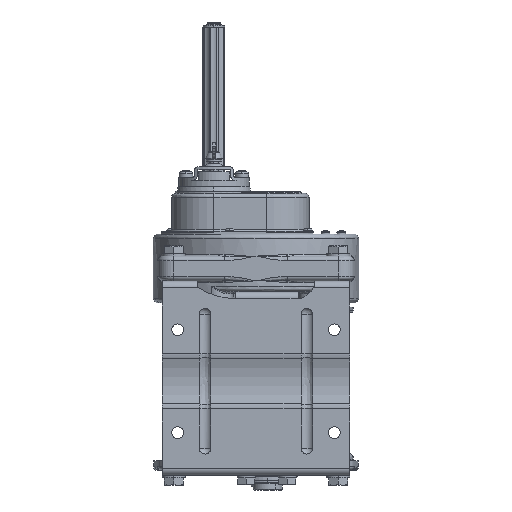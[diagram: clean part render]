
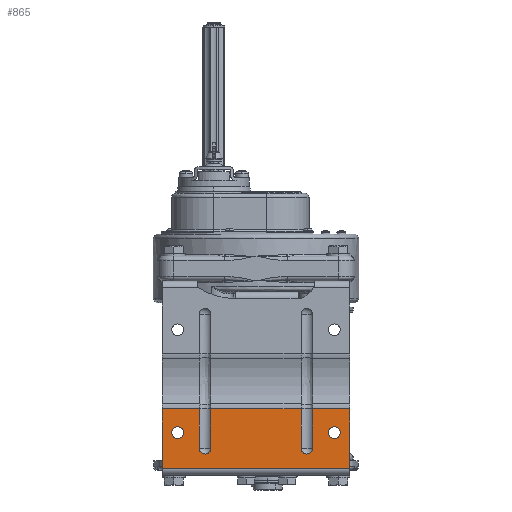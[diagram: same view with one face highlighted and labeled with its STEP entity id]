
A CAD part, front view. The second image highlights one B-rep face of the part: STEP entity #865.
In plain terms, the highlighted planar face has unit normal (0, -1, 0).
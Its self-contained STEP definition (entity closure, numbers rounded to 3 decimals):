
#865=ADVANCED_FACE('',(#10413,#10414,#10415),#10412,.T.);
#10412=PLANE('',#37247);
#10413=FACE_OUTER_BOUND('',#37248,.T.);
#10414=FACE_BOUND('',#37249,.T.);
#10415=FACE_BOUND('',#37250,.T.);
#37244=CARTESIAN_POINT('',(-375.965,0.,280.998));
#37245=DIRECTION('',(0.,-1.,0.));
#37246=DIRECTION('',(0.,0.,1.));
#37247=AXIS2_PLACEMENT_3D('',#37244,#37245,#37246);
#37248=EDGE_LOOP('',(#55670,#55671,#55672,#55673,#55674,#55675,#55676,#55677,#55678,#55679,#55680,#55681));
#37249=EDGE_LOOP('',(#55682,#55683));
#37250=EDGE_LOOP('',(#55684,#55685));
#55670=ORIENTED_EDGE('',*,*,#67986,.T.);
#55671=ORIENTED_EDGE('',*,*,#67991,.F.);
#55672=ORIENTED_EDGE('',*,*,#67992,.T.);
#55673=ORIENTED_EDGE('',*,*,#67993,.T.);
#55674=ORIENTED_EDGE('',*,*,#67990,.T.);
#55675=ORIENTED_EDGE('',*,*,#67966,.F.);
#55676=ORIENTED_EDGE('',*,*,#67962,.F.);
#55677=ORIENTED_EDGE('',*,*,#67965,.T.);
#55678=ORIENTED_EDGE('',*,*,#67957,.T.);
#55679=ORIENTED_EDGE('',*,*,#67903,.F.);
#55680=ORIENTED_EDGE('',*,*,#67775,.F.);
#55681=ORIENTED_EDGE('',*,*,#67928,.T.);
#55682=ORIENTED_EDGE('',*,*,#67994,.F.);
#55683=ORIENTED_EDGE('',*,*,#67995,.F.);
#55684=ORIENTED_EDGE('',*,*,#67996,.F.);
#55685=ORIENTED_EDGE('',*,*,#67997,.F.);
#67775=EDGE_CURVE('',#87179,#87180,#87181,.T.);
#67903=EDGE_CURVE('',#87180,#88039,#88040,.T.);
#67928=EDGE_CURVE('',#87179,#88194,#88201,.T.);
#67957=EDGE_CURVE('',#88376,#88039,#88390,.T.);
#67962=EDGE_CURVE('',#88417,#88425,#88426,.T.);
#67965=EDGE_CURVE('',#88417,#88376,#88445,.T.);
#67966=EDGE_CURVE('',#88425,#88438,#88451,.T.);
#67986=EDGE_CURVE('',#88194,#88578,#88585,.T.);
#67990=EDGE_CURVE('',#88591,#88438,#88612,.T.);
#67991=EDGE_CURVE('',#88618,#88578,#88619,.T.);
#67992=EDGE_CURVE('',#88618,#88625,#88626,.T.);
#67993=EDGE_CURVE('',#88625,#88591,#88632,.T.);
#67994=EDGE_CURVE('',#88638,#88639,#88640,.T.);
#67995=EDGE_CURVE('',#88639,#88638,#88646,.T.);
#67996=EDGE_CURVE('',#88652,#88653,#88654,.T.);
#67997=EDGE_CURVE('',#88653,#88652,#88660,.T.);
#87179=VERTEX_POINT('',#129385);
#87180=VERTEX_POINT('',#129386);
#87181=LINE('',#129387,#129388);
#88039=VERTEX_POINT('',#129935);
#88040=LINE('',#129936,#129937);
#88194=VERTEX_POINT('',#130026);
#88201=LINE('',#130031,#130032);
#88376=VERTEX_POINT('',#130138);
#88390=LINE('',#130147,#130148);
#88417=VERTEX_POINT('',#130165);
#88425=VERTEX_POINT('',#130171);
#88426=CIRCLE('',#130175,6.);
#88438=VERTEX_POINT('',#130180);
#88445=LINE('',#130185,#130186);
#88451=LINE('',#130188,#130189);
#88578=VERTEX_POINT('',#130267);
#88585=LINE('',#130272,#130273);
#88591=VERTEX_POINT('',#130275);
#88612=LINE('',#130289,#130290);
#88618=VERTEX_POINT('',#130292);
#88619=LINE('',#130293,#130294);
#88625=VERTEX_POINT('',#130296);
#88626=CIRCLE('',#130300,6.);
#88632=LINE('',#130301,#130302);
#88638=VERTEX_POINT('',#130304);
#88639=VERTEX_POINT('',#130305);
#88640=CIRCLE('',#130309,6.);
#88646=CIRCLE('',#130313,6.);
#88652=VERTEX_POINT('',#130314);
#88653=VERTEX_POINT('',#130315);
#88654=CIRCLE('',#130319,6.);
#88660=CIRCLE('',#130323,6.);
#129385=CARTESIAN_POINT('',(-385.965,0.,287.098));
#129386=CARTESIAN_POINT('',(-577.965,0.,287.098));
#129387=CARTESIAN_POINT('',(-385.965,0.,287.098));
#129388=VECTOR('',#129389,192.);
#129389=DIRECTION('',(-1.,0.,0.));
#129935=CARTESIAN_POINT('',(-577.965,0.,348.102));
#129936=CARTESIAN_POINT('',(-577.965,0.,287.098));
#129937=VECTOR('',#129938,61.004);
#129938=DIRECTION('',(0.,0.,1.));
#130026=CARTESIAN_POINT('',(-385.965,0.,348.102));
#130031=CARTESIAN_POINT('',(-385.965,0.,287.098));
#130032=VECTOR('',#130033,61.004);
#130033=DIRECTION('',(0.,0.,1.));
#130138=CARTESIAN_POINT('',(-539.965,0.,348.102));
#130147=CARTESIAN_POINT('',(-539.965,0.,348.102));
#130148=VECTOR('',#130149,38.);
#130149=DIRECTION('',(-1.,0.,0.));
#130165=CARTESIAN_POINT('',(-539.965,0.,307.896));
#130171=CARTESIAN_POINT('',(-527.965,0.,307.896));
#130172=CARTESIAN_POINT('',(-533.965,0.,307.896));
#130173=DIRECTION('',(0.,-1.,0.));
#130174=DIRECTION('',(1.,0.,0.));
#130175=AXIS2_PLACEMENT_3D('',#130172,#130173,#130174);
#130180=CARTESIAN_POINT('',(-527.965,0.,348.102));
#130185=CARTESIAN_POINT('',(-539.965,0.,307.896));
#130186=VECTOR('',#130187,40.206);
#130187=DIRECTION('',(0.,0.,1.));
#130188=CARTESIAN_POINT('',(-527.965,0.,307.896));
#130189=VECTOR('',#130190,40.206);
#130190=DIRECTION('',(0.,0.,1.));
#130267=CARTESIAN_POINT('',(-423.965,0.,348.102));
#130272=CARTESIAN_POINT('',(-385.965,0.,348.102));
#130273=VECTOR('',#130274,38.);
#130274=DIRECTION('',(-1.,0.,0.));
#130275=CARTESIAN_POINT('',(-435.965,0.,348.102));
#130289=CARTESIAN_POINT('',(-435.965,0.,348.102));
#130290=VECTOR('',#130291,92.);
#130291=DIRECTION('',(-1.,0.,0.));
#130292=CARTESIAN_POINT('',(-423.965,0.,307.896));
#130293=CARTESIAN_POINT('',(-423.965,0.,307.896));
#130294=VECTOR('',#130295,40.206);
#130295=DIRECTION('',(0.,0.,1.));
#130296=CARTESIAN_POINT('',(-435.965,0.,307.896));
#130297=CARTESIAN_POINT('',(-429.965,0.,307.896));
#130298=DIRECTION('',(0.,1.,0.));
#130299=DIRECTION('',(1.,0.,0.));
#130300=AXIS2_PLACEMENT_3D('',#130297,#130298,#130299);
#130301=CARTESIAN_POINT('',(-435.965,0.,307.896));
#130302=VECTOR('',#130303,40.206);
#130303=DIRECTION('',(0.,0.,1.));
#130304=CARTESIAN_POINT('',(-401.965,0.,317.798));
#130305=CARTESIAN_POINT('',(-401.965,0.,329.798));
#130306=CARTESIAN_POINT('',(-401.965,0.,323.798));
#130307=DIRECTION('',(0.,-1.,0.));
#130308=DIRECTION('',(0.,0.,1.));
#130309=AXIS2_PLACEMENT_3D('',#130306,#130307,#130308);
#130310=CARTESIAN_POINT('',(-401.965,0.,323.798));
#130311=DIRECTION('',(0.,-1.,0.));
#130312=DIRECTION('',(0.,0.,1.));
#130313=AXIS2_PLACEMENT_3D('',#130310,#130311,#130312);
#130314=CARTESIAN_POINT('',(-561.965,0.,317.798));
#130315=CARTESIAN_POINT('',(-561.965,0.,329.798));
#130316=CARTESIAN_POINT('',(-561.965,0.,323.798));
#130317=DIRECTION('',(0.,-1.,0.));
#130318=DIRECTION('',(0.,0.,1.));
#130319=AXIS2_PLACEMENT_3D('',#130316,#130317,#130318);
#130320=CARTESIAN_POINT('',(-561.965,0.,323.798));
#130321=DIRECTION('',(0.,-1.,0.));
#130322=DIRECTION('',(0.,0.,1.));
#130323=AXIS2_PLACEMENT_3D('',#130320,#130321,#130322);
